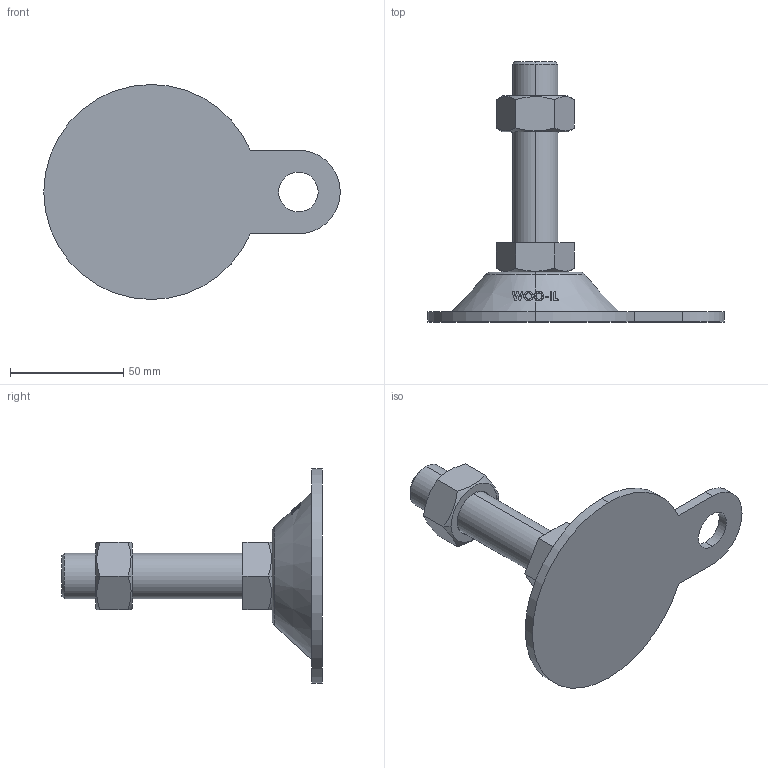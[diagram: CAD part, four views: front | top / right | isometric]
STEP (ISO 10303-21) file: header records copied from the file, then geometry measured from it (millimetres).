
FILE_DESCRIPTION (( 'STEP AP214' ), '1' );
FILE_NAME ('ABL95-M20-80.step', '2021-02-05T04:22:05', ( '' ), ( '' ), 'SwSTEP 2.0', 'SolidWorks 2019', '' );
FILE_SCHEMA (( 'AUTOMOTIVE_DESIGN' ));
Length unit declared in the file: millimetre
Products named in the file (2): ABL95-M20-80
Bounding box: 131 x 115 x 95 mm (x, y, z)
Volume: 126151.4 mm3; surface area: 29473.3 mm2
Topology: 2 solids, 2 shells, 128 faces, 328 edges, 214 vertices
Faces by surface type: plane 48, cylinder 38, cone 22, bspline 18, torus 2
Entity records: 5462 total; most frequent: CARTESIAN_POINT 2562, ORIENTED_EDGE 656, DIRECTION 474, EDGE_CURVE 328, VERTEX_POINT 214, AXIS2_PLACEMENT_3D 176, EDGE_LOOP 142, B_SPLINE_CURVE_WITH_KNOTS 142
